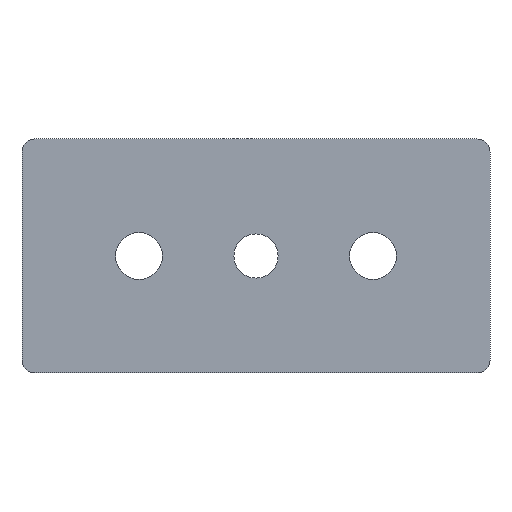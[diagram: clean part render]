
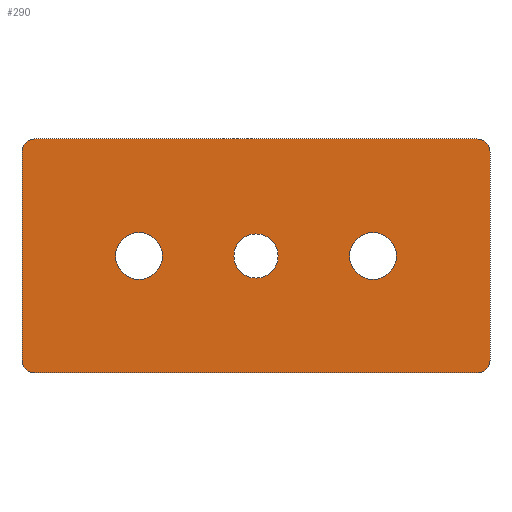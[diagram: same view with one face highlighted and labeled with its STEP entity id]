
A CAD part, front view. The second image highlights one B-rep face of the part: STEP entity #290.
In plain terms, the highlighted planar face has unit normal (0, -1, 0).
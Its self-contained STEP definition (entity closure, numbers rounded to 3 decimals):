
#15=FACE_BOUND('',#54,.T.);
#16=FACE_BOUND('',#55,.T.);
#17=FACE_BOUND('',#56,.T.);
#23=PLANE('',#337);
#36=FACE_OUTER_BOUND('',#53,.T.);
#53=EDGE_LOOP('',(#218,#219,#220,#221,#222,#223,#224,#225));
#54=EDGE_LOOP('',(#226));
#55=EDGE_LOOP('',(#227));
#56=EDGE_LOOP('',(#228));
#78=LINE('',#484,#99);
#79=LINE('',#488,#100);
#80=LINE('',#492,#101);
#81=LINE('',#496,#102);
#99=VECTOR('',#396,1000.);
#100=VECTOR('',#399,1000.);
#101=VECTOR('',#402,1000.);
#102=VECTOR('',#405,1000.);
#115=CIRCLE('',#323,4.25);
#119=CIRCLE('',#329,4.5);
#123=CIRCLE('',#335,4.5);
#125=CIRCLE('',#338,2.5);
#126=CIRCLE('',#339,2.5);
#127=CIRCLE('',#340,2.5);
#128=CIRCLE('',#341,2.5);
#133=VERTEX_POINT('',#452);
#137=VERTEX_POINT('',#464);
#141=VERTEX_POINT('',#476);
#143=VERTEX_POINT('',#482);
#144=VERTEX_POINT('',#483);
#145=VERTEX_POINT('',#485);
#146=VERTEX_POINT('',#487);
#147=VERTEX_POINT('',#489);
#148=VERTEX_POINT('',#491);
#149=VERTEX_POINT('',#493);
#150=VERTEX_POINT('',#495);
#159=EDGE_CURVE('',#133,#133,#115,.T.);
#165=EDGE_CURVE('',#137,#137,#119,.T.);
#171=EDGE_CURVE('',#141,#141,#123,.T.);
#174=EDGE_CURVE('',#143,#144,#78,.T.);
#175=EDGE_CURVE('',#143,#145,#125,.T.);
#176=EDGE_CURVE('',#146,#145,#79,.T.);
#177=EDGE_CURVE('',#146,#147,#126,.T.);
#178=EDGE_CURVE('',#148,#147,#80,.T.);
#179=EDGE_CURVE('',#148,#149,#127,.T.);
#180=EDGE_CURVE('',#150,#149,#81,.T.);
#181=EDGE_CURVE('',#150,#144,#128,.T.);
#218=ORIENTED_EDGE('',*,*,#174,.F.);
#219=ORIENTED_EDGE('',*,*,#175,.T.);
#220=ORIENTED_EDGE('',*,*,#176,.F.);
#221=ORIENTED_EDGE('',*,*,#177,.T.);
#222=ORIENTED_EDGE('',*,*,#178,.F.);
#223=ORIENTED_EDGE('',*,*,#179,.T.);
#224=ORIENTED_EDGE('',*,*,#180,.F.);
#225=ORIENTED_EDGE('',*,*,#181,.T.);
#226=ORIENTED_EDGE('',*,*,#171,.F.);
#227=ORIENTED_EDGE('',*,*,#165,.F.);
#228=ORIENTED_EDGE('',*,*,#159,.T.);
#290=ADVANCED_FACE('',(#36,#15,#16,#17),#23,.T.);
#323=AXIS2_PLACEMENT_3D('',#453,#361,#362);
#329=AXIS2_PLACEMENT_3D('',#465,#375,#376);
#335=AXIS2_PLACEMENT_3D('',#477,#389,#390);
#337=AXIS2_PLACEMENT_3D('',#481,#394,#395);
#338=AXIS2_PLACEMENT_3D('',#486,#397,#398);
#339=AXIS2_PLACEMENT_3D('',#490,#400,#401);
#340=AXIS2_PLACEMENT_3D('',#494,#403,#404);
#341=AXIS2_PLACEMENT_3D('',#497,#406,#407);
#361=DIRECTION('center_axis',(0.,1.,0.));
#362=DIRECTION('ref_axis',(0.,0.,1.));
#375=DIRECTION('center_axis',(0.,-1.,0.));
#376=DIRECTION('ref_axis',(0.,0.,-1.));
#389=DIRECTION('center_axis',(0.,-1.,0.));
#390=DIRECTION('ref_axis',(0.,0.,-1.));
#394=DIRECTION('center_axis',(0.,-1.,0.));
#395=DIRECTION('ref_axis',(0.,0.,-1.));
#396=DIRECTION('',(0.,0.,1.));
#397=DIRECTION('center_axis',(0.,-1.,0.));
#398=DIRECTION('ref_axis',(0.,0.,-1.));
#399=DIRECTION('',(-1.,0.,0.));
#400=DIRECTION('center_axis',(0.,-1.,0.));
#401=DIRECTION('ref_axis',(0.,0.,-1.));
#402=DIRECTION('',(0.,0.,-1.));
#403=DIRECTION('center_axis',(0.,-1.,0.));
#404=DIRECTION('ref_axis',(0.,0.,-1.));
#405=DIRECTION('',(1.,0.,0.));
#406=DIRECTION('center_axis',(0.,-1.,0.));
#407=DIRECTION('ref_axis',(0.,0.,-1.));
#452=CARTESIAN_POINT('',(0.,0.,-4.25));
#453=CARTESIAN_POINT('Origin',(0.,0.,0.));
#464=CARTESIAN_POINT('',(-22.5,0.,-4.5));
#465=CARTESIAN_POINT('Origin',(-22.5,0.,0.));
#476=CARTESIAN_POINT('',(22.5,0.,-4.5));
#477=CARTESIAN_POINT('Origin',(22.5,0.,0.));
#481=CARTESIAN_POINT('Origin',(-45.,0.,-22.5));
#482=CARTESIAN_POINT('',(-45.,0.,-20.));
#483=CARTESIAN_POINT('',(-45.,0.,20.));
#484=CARTESIAN_POINT('',(-45.,0.,22.5));
#485=CARTESIAN_POINT('',(-42.5,0.,-22.5));
#486=CARTESIAN_POINT('Origin',(-42.5,0.,-20.));
#487=CARTESIAN_POINT('',(42.5,0.,-22.5));
#488=CARTESIAN_POINT('',(-45.,0.,-22.5));
#489=CARTESIAN_POINT('',(45.,0.,-20.));
#490=CARTESIAN_POINT('Origin',(42.5,0.,-20.));
#491=CARTESIAN_POINT('',(45.,0.,20.));
#492=CARTESIAN_POINT('',(45.,0.,22.5));
#493=CARTESIAN_POINT('',(42.5,0.,22.5));
#494=CARTESIAN_POINT('Origin',(42.5,0.,20.));
#495=CARTESIAN_POINT('',(-42.5,0.,22.5));
#496=CARTESIAN_POINT('',(-45.,0.,22.5));
#497=CARTESIAN_POINT('Origin',(-42.5,0.,20.));
